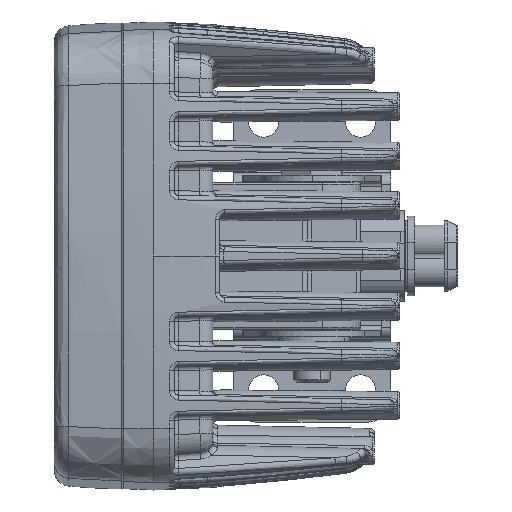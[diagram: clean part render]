
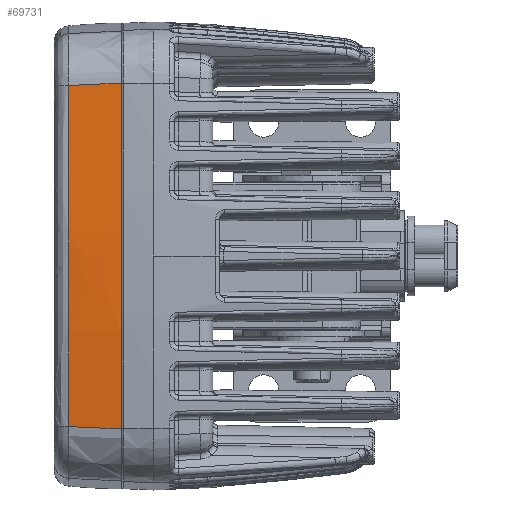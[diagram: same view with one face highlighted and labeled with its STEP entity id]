
A CAD part, left-side view. The second image highlights one B-rep face of the part: STEP entity #69731.
In plain terms, the highlighted free-form (B-spline) face has degree [3, 3] with [4, 7] control points.
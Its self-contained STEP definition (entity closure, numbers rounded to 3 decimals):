
#2386 = B_SPLINE_CURVE_WITH_KNOTS ( 'NONE', 3,
 ( #79840, #150567, #103621, #32853, #115428, #44684 ),
 .UNSPECIFIED., .F., .F.,
 ( 4, 2, 4 ),
 ( 0.107, 0.5, 0.893 ),
 .UNSPECIFIED. ) ;
#7361 = CARTESIAN_POINT ( 'NONE',  ( -49.897, 11.285, -3.07 ) ) ;
#10327 = CARTESIAN_POINT ( 'NONE',  ( -47.652, 0., 47.652 ) ) ;
#10845 = CARTESIAN_POINT ( 'NONE',  ( -50.331, 6.689, -2.057 ) ) ;
#11347 = CARTESIAN_POINT ( 'NONE',  ( -49.003, 20., 15.357 ) ) ;
#19152 = CARTESIAN_POINT ( 'NONE',  ( -49.726, 11.284, -12.325 ) ) ;
#21063 = CARTESIAN_POINT ( 'NONE',  ( -48.741, 0., 37.47 ) ) ;
#22678 = CARTESIAN_POINT ( 'NONE',  ( -49.291, 6.689, -32.583 ) ) ;
#23155 = CARTESIAN_POINT ( 'NONE',  ( -48.878, 20., -17.49 ) ) ;
#23357 = CARTESIAN_POINT ( 'NONE',  ( -48.198, 11.282, -36.957 ) ) ;
#26390 = VERTEX_POINT ( 'NONE', #21063 ) ;
#31051 = CARTESIAN_POINT ( 'NONE',  ( -49.204, 11.282, -24.653 ) ) ;
#32853 = CARTESIAN_POINT ( 'NONE',  ( -50.5, 0., -12.524 ) ) ;
#34048 = CARTESIAN_POINT ( 'NONE',  ( -49.544, 0., 31.881 ) ) ;
#34561 = CARTESIAN_POINT ( 'NONE',  ( -47.049, 13.361, 47.049 ) ) ;
#35079 = CARTESIAN_POINT ( 'NONE',  ( -46.297, 20., -46.297 ) ) ;
#42910 = CARTESIAN_POINT ( 'NONE',  ( -48.198, 11.282, -36.957 ) ) ;
#44684 = CARTESIAN_POINT ( 'NONE',  ( -48.741, 0., -37.469 ) ) ;
#45916 = CARTESIAN_POINT ( 'NONE',  ( -50.5, 0., -1.913 ) ) ;
#46414 = CARTESIAN_POINT ( 'NONE',  ( -49.847, 13.361, 14.924 ) ) ;
#52415 = B_SPLINE_CURVE_WITH_KNOTS ( 'NONE', 3,
 ( #136341, #53718, #66153, #148782, #78035, #7361, #89907, #19152, #101804, #31051, #113646, #42910 ),
 .UNSPECIFIED., .F., .F.,
 ( 4, 2, 2, 2, 2, 4 ),
 ( 0., 0.018, 0.037, 0.046, 0.055, 0.074 ),
 .UNSPECIFIED. ) ;
#53718 = CARTESIAN_POINT ( 'NONE',  ( -48.772, 11.281, 30.811 ) ) ;
#55674 = B_SPLINE_CURVE_WITH_KNOTS ( 'NONE', 3,
 ( #91568, #102961, #126609, #103474 ),
 .UNSPECIFIED., .F., .F.,
 ( 4, 4 ),
 ( 0.009, 0.02 ),
 .UNSPECIFIED. ) ;
#56554 = VERTEX_POINT ( 'NONE', #70260 ) ;
#57749 = CARTESIAN_POINT ( 'NONE',  ( -49.317, 0., -33.773 ) ) ;
#58261 = CARTESIAN_POINT ( 'NONE',  ( -49.712, 13.361, -17.252 ) ) ;
#59920 = EDGE_LOOP ( 'NONE', ( #92883, #94651, #137597, #126328 ) ) ;
#60776 = EDGE_CURVE ( 'NONE', #26390, #56554, #77421, .T. ) ;
#65558 = EDGE_CURVE ( 'NONE', #93670, #79319, #55674, .T. ) ;
#66153 = CARTESIAN_POINT ( 'NONE',  ( -49.2, 11.282, 24.659 ) ) ;
#69680 = CARTESIAN_POINT ( 'NONE',  ( -47.501, 6.689, 47.501 ) ) ;
#69731 = ADVANCED_FACE ( 'NONE', ( #87554 ), #98200, .T. ) ;
#70205 = CARTESIAN_POINT ( 'NONE',  ( -47.049, 13.361, -47.049 ) ) ;
#70260 = CARTESIAN_POINT ( 'NONE',  ( -48.196, 11.282, 36.956 ) ) ;
#72007 = CARTESIAN_POINT ( 'NONE',  ( -48.196, 11.282, 36.956 ) ) ;
#77421 = B_SPLINE_CURVE_WITH_KNOTS ( 'NONE', 3,
 ( #130780, #118911, #142699, #72007 ),
 .UNSPECIFIED., .F., .F.,
 ( 4, 4 ),
 ( 0., 0.011 ),
 .UNSPECIFIED. ) ;
#78035 = CARTESIAN_POINT ( 'NONE',  ( -49.9, 11.285, 6.182 ) ) ;
#79319 = VERTEX_POINT ( 'NONE', #129541 ) ;
#79840 = CARTESIAN_POINT ( 'NONE',  ( -48.741, 0., 37.47 ) ) ;
#81566 = CARTESIAN_POINT ( 'NONE',  ( -50.346, 6.689, 15.154 ) ) ;
#82059 = CARTESIAN_POINT ( 'NONE',  ( -48.14, 20., 30.935 ) ) ;
#87554 = FACE_OUTER_BOUND ( 'NONE', #59920, .T. ) ;
#89907 = CARTESIAN_POINT ( 'NONE',  ( -49.862, 11.285, -6.156 ) ) ;
#91568 = CARTESIAN_POINT ( 'NONE',  ( -48.198, 11.282, -36.957 ) ) ;
#92883 = ORIENTED_EDGE ( 'NONE', *, *, #60776, .T. ) ;
#93432 = CARTESIAN_POINT ( 'NONE',  ( -50.215, 6.689, -17.394 ) ) ;
#93670 = VERTEX_POINT ( 'NONE', #23357 ) ;
#93939 = CARTESIAN_POINT ( 'NONE',  ( -48.992, 20., -2.001 ) ) ;
#94651 = ORIENTED_EDGE ( 'NONE', *, *, #152967, .T. ) ;
#98200 =( BOUNDED_SURFACE ( )  B_SPLINE_SURFACE ( 3, 3, ( 
 ( #10327, #34048, #116618, #45916, #128499, #57749, #140418 ),
 ( #69680, #152303, #81566, #10845, #93432, #22678, #105340 ),
 ( #34561, #117119, #46414, #129012, #58261, #140914, #70205 ),
 ( #152838, #82059, #11347, #93939, #23155, #105838, #35079 ) ),
 .UNSPECIFIED., .F., .F., .T. ) 
 B_SPLINE_SURFACE_WITH_KNOTS ( ( 4, 4 ),
 ( 4, 2, 1, 4 ),
 ( 0.207, 0.516 ),
 ( 0., 0.5, 0.56, 1. ),
 .UNSPECIFIED. ) 
 GEOMETRIC_REPRESENTATION_ITEM ( )  RATIONAL_B_SPLINE_SURFACE ( (
 ( 1., 1., 1., 1., 1., 1., 1.),
 ( 0.999, 0.999, 0.999, 0.999, 0.999, 0.999, 0.999),
 ( 0.999, 0.999, 0.999, 0.999, 0.999, 0.999, 0.999),
 ( 1., 1., 1., 1., 1., 1., 1.) ) ) 
 REPRESENTATION_ITEM ( '' )  SURFACE ( )  );
#101804 = CARTESIAN_POINT ( 'NONE',  ( -49.623, 11.284, -15.408 ) ) ;
#102961 = CARTESIAN_POINT ( 'NONE',  ( -48.477, 7.532, -37.225 ) ) ;
#103474 = CARTESIAN_POINT ( 'NONE',  ( -48.741, 0., -37.469 ) ) ;
#103621 = CARTESIAN_POINT ( 'NONE',  ( -50.5, 0., 12.524 ) ) ;
#105340 = CARTESIAN_POINT ( 'NONE',  ( -47.501, 6.689, -47.501 ) ) ;
#105838 = CARTESIAN_POINT ( 'NONE',  ( -47.909, 20., -32.862 ) ) ;
#113646 = CARTESIAN_POINT ( 'NONE',  ( -48.776, 11.281, -30.812 ) ) ;
#115428 = CARTESIAN_POINT ( 'NONE',  ( -49.914, 0., -25.014 ) ) ;
#116618 = CARTESIAN_POINT ( 'NONE',  ( -50.5, 0., 15.941 ) ) ;
#117119 = CARTESIAN_POINT ( 'NONE',  ( -49.046, 13.361, 30.407 ) ) ;
#118911 = CARTESIAN_POINT ( 'NONE',  ( -48.657, 3.769, 37.395 ) ) ;
#126328 = ORIENTED_EDGE ( 'NONE', *, *, #134503, .F. ) ;
#126609 = CARTESIAN_POINT ( 'NONE',  ( -48.658, 3.769, -37.396 ) ) ;
#128499 = CARTESIAN_POINT ( 'NONE',  ( -50.385, 0., -17.853 ) ) ;
#129012 = CARTESIAN_POINT ( 'NONE',  ( -49.828, 13.361, -2.093 ) ) ;
#129541 = CARTESIAN_POINT ( 'NONE',  ( -48.741, 0., -37.469 ) ) ;
#130780 = CARTESIAN_POINT ( 'NONE',  ( -48.741, 0., 37.47 ) ) ;
#134503 = EDGE_CURVE ( 'NONE', #26390, #79319, #2386, .T. ) ;
#136341 = CARTESIAN_POINT ( 'NONE',  ( -48.196, 11.282, 36.956 ) ) ;
#137597 = ORIENTED_EDGE ( 'NONE', *, *, #65558, .T. ) ;
#140418 = CARTESIAN_POINT ( 'NONE',  ( -47.652, 0., -47.652 ) ) ;
#140914 = CARTESIAN_POINT ( 'NONE',  ( -48.828, 13.361, -32.225 ) ) ;
#142699 = CARTESIAN_POINT ( 'NONE',  ( -48.475, 7.532, 37.224 ) ) ;
#148782 = CARTESIAN_POINT ( 'NONE',  ( -49.765, 11.284, 12.345 ) ) ;
#150567 = CARTESIAN_POINT ( 'NONE',  ( -49.914, 0., 25.015 ) ) ;
#152303 = CARTESIAN_POINT ( 'NONE',  ( -49.508, 6.689, 30.772 ) ) ;
#152838 = CARTESIAN_POINT ( 'NONE',  ( -46.297, 20., 46.297 ) ) ;
#152967 = EDGE_CURVE ( 'NONE', #56554, #93670, #52415, .T. ) ;
